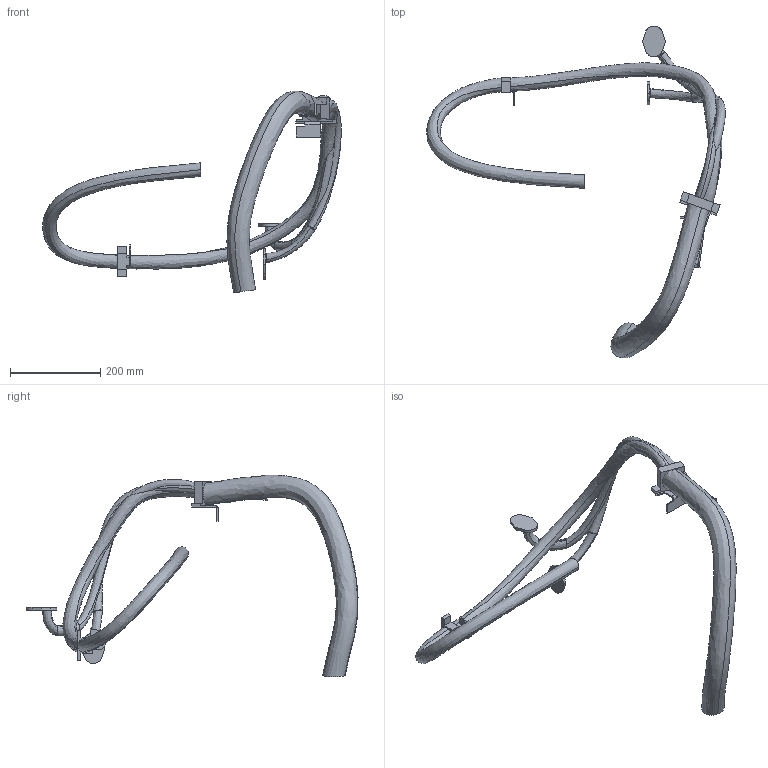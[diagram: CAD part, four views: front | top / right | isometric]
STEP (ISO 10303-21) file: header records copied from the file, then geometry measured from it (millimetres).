
FILE_DESCRIPTION (( 'STEP AP214' ), '1' );
FILE_NAME ('IRB6700-SW6_145-320_IRC5_rev02_LINK03m_CABLE.STEP', '2016-01-27T12:19:00', ( 'ABB' ), ( 'ABB' ), 'SwSTEP 2.0', 'SolidWorks 2014', '' );
FILE_SCHEMA (( 'AUTOMOTIVE_DESIGN' ));
Length unit declared in the file: millimetre
Products named in the file (1): IRB6700-SW6_145-320_IRC5_rev02_LINK03m_CABLE
Bounding box: 661 x 735.04 x 446.54 mm (x, y, z)
Volume: 2751824.7 mm3; surface area: 329349.7 mm2
Topology: 1 solids, 1 shells, 127 faces, 382 edges, 259 vertices
Faces by surface type: plane 87, bspline 31, cylinder 9
Entity records: 21824 total; most frequent: CARTESIAN_POINT 17322, ORIENTED_EDGE 764, DIRECTION 444, EDGE_CURVE 382, VERTEX_POINT 259, LINE 236, VECTOR 236, B_SPLINE_CURVE_WITH_KNOTS 139
